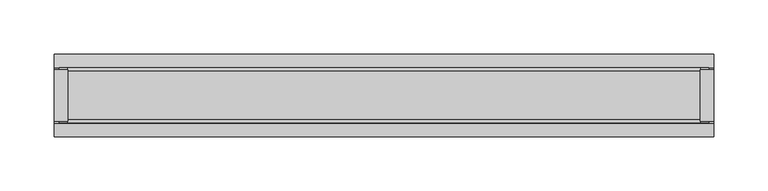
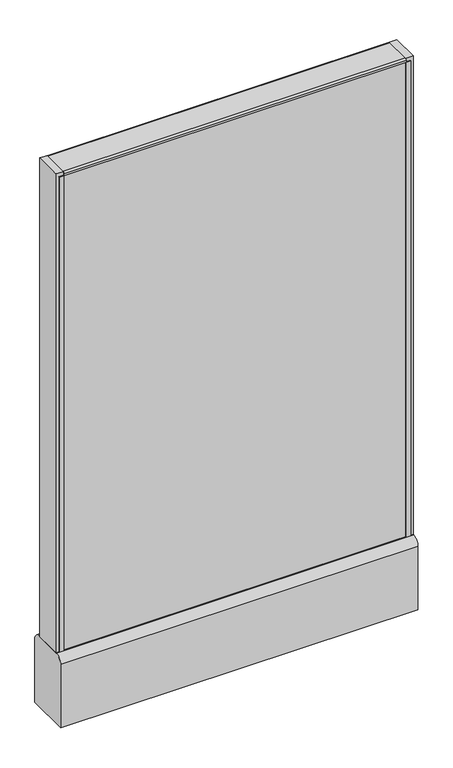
"""IFC4 building model written with IfcOpenShell, lengths in millimetres: furniture geometry."""

from ifc_helpers import new_model, si_unit, point, frame, frame_2d, origin, place, context, project, spatial, polyline, circle_curve, trimmed, segment, composite_curve, outline, extrude, source, transform, mapped, element, save
from ifc_brep_helpers import plane_surface, cylinder_surface, advanced_brep


def furniture_988329af(model_context):
    return source(origin(), model_context, "Body", "SolidModel", [
        advanced_brep(
        [(247.65, 0.0, 0.0), (273.05, 0.0, 0.0), (260.35, 0.0, 0.0), (247.65, 0.0, 4.7625), (273.05, 0.0, 4.7625), (254.0, 0.0, 4.7625), (266.7, 0.0, 4.7625), (254.0, 0.0, 111.125), (266.7, 0.0, 111.125), (260.35, 0.0, 111.125)],
        [
            (0, 1, circle_curve(frame((260.35, 0.0, 0.0), z_axis=(0.0, 0.0, -1.0), x_axis=(1.0, 0.0, 0.0)), 12.7)),
            (1, 2),
            (2, 0),
            (1, 0, circle_curve(frame((260.35, 0.0, 0.0), z_axis=(0.0, 0.0, -1.0), x_axis=(1.0, 0.0, 0.0)), 12.7)),
            (3, 4, circle_curve(frame((260.35, 0.0, 4.7625), z_axis=(0.0, 0.0, -1.0), x_axis=(1.0, 0.0, 0.0)), 12.7)),
            (4, 1),
            (0, 3),
            (4, 3, circle_curve(frame((260.35, 0.0, 4.7625), z_axis=(0.0, 0.0, -1.0), x_axis=(1.0, 0.0, 0.0)), 12.7)),
            (5, 6, circle_curve(frame((260.35, 0.0, 4.7625), z_axis=(0.0, 0.0, -1.0), x_axis=(1.0, 0.0, 0.0)), 6.35)),
            (6, 4),
            (3, 5),
            (6, 5, circle_curve(frame((260.35, 0.0, 4.7625), z_axis=(0.0, 0.0, -1.0), x_axis=(1.0, 0.0, 0.0)), 6.35)),
            (7, 8, circle_curve(frame((260.35, 0.0, 111.125), z_axis=(0.0, 0.0, -1.0), x_axis=(1.0, 0.0, 0.0)), 6.35)),
            (8, 6),
            (5, 7),
            (8, 7, circle_curve(frame((260.35, 0.0, 111.125), z_axis=(0.0, 0.0, -1.0), x_axis=(1.0, 0.0, 0.0)), 6.35)),
            (9, 8),
            (7, 9),
        ],
        [
            plane_surface(frame((260.35, 0.0, 0.0), z_axis=(0.0, 0.0, -1.0), x_axis=(1.0, 0.0, 0.0))),
            cylinder_surface(frame((260.35, 0.0, 114.882153), z_axis=(0.0, 0.0, 1.0), x_axis=(1.0, 0.0, 0.0)), 12.7),
            plane_surface(frame((260.35, 0.0, 4.7625), z_axis=(0.0, 0.0, 1.0), x_axis=(1.0, 0.0, 0.0))),
            cylinder_surface(frame((260.35, 0.0, 114.882153), z_axis=(0.0, 0.0, 1.0), x_axis=(1.0, 0.0, 0.0)), 6.35),
            plane_surface(frame((260.35, 0.0, 111.125), z_axis=(0.0, 0.0, 1.0), x_axis=(1.0, 0.0, 0.0))),
        ],
        [
            (0, [[1, 2, 3]]),
            (0, [[4, -3, -2]]),
            (1, [[5, 6, -1, 7]]),
            (1, [[8, -7, -4, -6]]),
            (2, [[9, 10, -5, 11]]),
            (2, [[12, -11, -8, -10]]),
            (3, [[13, 14, -9, 15]]),
            (3, [[16, -15, -12, -14]]),
            (4, [[17, -13, 18]]),
            (4, [[-18, -16, -17]]),
        ],
    ),
        advanced_brep(
        [(-273.05, 0.0, 4.7625), (-247.65, 0.0, 4.7625), (-247.65, 0.0, 0.0), (-273.05, 0.0, 0.0), (-266.7, 0.0, 4.7625), (-254.0, 0.0, 4.7625), (-266.7, 0.0, 111.125), (-254.0, 0.0, 111.125), (-260.35, 0.0, 111.125), (-260.35, 0.0, 0.0)],
        [
            (0, 1, circle_curve(frame((-260.35, 0.0, 4.7625), z_axis=(0.0, 0.0, -1.0), x_axis=(1.0, 0.0, 0.0)), 12.7)),
            (1, 2),
            (2, 3, circle_curve(frame((-260.35, 0.0, 0.0), z_axis=(0.0, 0.0, 1.0), x_axis=(1.0, 0.0, 0.0)), 12.7)),
            (3, 0),
            (1, 0, circle_curve(frame((-260.35, 0.0, 4.7625), z_axis=(0.0, 0.0, -1.0), x_axis=(1.0, 0.0, 0.0)), 12.7)),
            (3, 2, circle_curve(frame((-260.35, 0.0, 0.0), z_axis=(0.0, 0.0, 1.0), x_axis=(1.0, 0.0, 0.0)), 12.7)),
            (4, 5, circle_curve(frame((-260.35, 0.0, 4.7625), z_axis=(0.0, 0.0, -1.0), x_axis=(1.0, 0.0, 0.0)), 6.35)),
            (5, 1),
            (0, 4),
            (5, 4, circle_curve(frame((-260.35, 0.0, 4.7625), z_axis=(0.0, 0.0, -1.0), x_axis=(1.0, 0.0, 0.0)), 6.35)),
            (6, 7, circle_curve(frame((-260.35, 0.0, 111.125), z_axis=(0.0, 0.0, -1.0), x_axis=(1.0, 0.0, 0.0)), 6.35)),
            (7, 5),
            (4, 6),
            (7, 6, circle_curve(frame((-260.35, 0.0, 111.125), z_axis=(0.0, 0.0, -1.0), x_axis=(1.0, 0.0, 0.0)), 6.35)),
            (8, 7),
            (6, 8),
            (2, 9),
            (9, 3),
        ],
        [
            cylinder_surface(frame((-260.35, 0.0, 123.825), z_axis=(0.0, 0.0, 1.0), x_axis=(1.0, 0.0, 0.0)), 12.7),
            plane_surface(frame((-260.35, 0.0, 4.7625), z_axis=(0.0, 0.0, 1.0), x_axis=(1.0, 0.0, 0.0))),
            cylinder_surface(frame((-260.35, 0.0, 123.825), z_axis=(0.0, 0.0, 1.0), x_axis=(1.0, 0.0, 0.0)), 6.35),
            plane_surface(frame((-260.35, 0.0, 111.125), z_axis=(0.0, 0.0, 1.0), x_axis=(1.0, 0.0, 0.0))),
            plane_surface(frame((-260.35, 0.0, 0.0), z_axis=(0.0, 0.0, -1.0), x_axis=(1.0, 0.0, 0.0))),
        ],
        [
            (0, [[1, 2, 3, 4]]),
            (0, [[5, -4, 6, -2]]),
            (1, [[7, 8, -1, 9]]),
            (1, [[10, -9, -5, -8]]),
            (2, [[11, 12, -7, 13]]),
            (2, [[14, -13, -10, -12]]),
            (3, [[15, -11, 16]]),
            (3, [[-16, -14, -15]]),
            (4, [[-3, 17, 18]]),
            (4, [[-6, -18, -17]]),
        ],
    ),
        extrude(outline(polyline([(-304.8, 23.8125), (-292.1, 23.8125), (-292.1, -23.8125), (-304.8, -23.8125), (-304.8, 23.8125)])), frame((0.0, 0.0, 136.525), z_axis=(0.0, 0.0, 1.0), x_axis=(1.0, 0.0, 0.0)), (0.0, 0.0, 1.0), 863.6),
        extrude(outline(polyline([(292.1, -23.8125), (292.1, 23.8125), (304.8, 23.8125), (304.8, -23.8125), (292.1, -23.8125)])), frame((0.0, 0.0, 136.525), z_axis=(0.0, 0.0, 1.0), x_axis=(1.0, 0.0, 0.0)), (0.0, 0.0, 1.0), 863.6),
        extrude(outline(polyline([(-292.1, 25.4), (-292.1, 23.8125), (-300.0375, 23.8125), (-300.0375, 25.4), (-292.1, 25.4)])), frame((0.0, 0.0, 136.525), z_axis=(0.0, 0.0, 1.0), x_axis=(1.0, 0.0, 0.0)), (0.0, 0.0, 1.0), 857.25),
        extrude(outline(polyline([(-292.1, -25.4), (-300.0375, -25.4), (-300.0375, -23.8125), (-292.1, -23.8125), (-292.1, -25.4)])), frame((0.0, 0.0, 136.525), z_axis=(0.0, 0.0, 1.0), x_axis=(1.0, 0.0, 0.0)), (0.0, 0.0, 1.0), 857.25),
        extrude(outline(polyline([(300.0375, 23.8125), (292.1, 23.8125), (292.1, 25.4), (300.0375, 25.4), (300.0375, 23.8125)])), frame((0.0, 0.0, 136.525), z_axis=(0.0, 0.0, 1.0), x_axis=(1.0, 0.0, 0.0)), (0.0, 0.0, 1.0), 857.25),
        extrude(outline(polyline([(292.1, -25.4), (292.1, -23.8125), (300.0375, -23.8125), (300.0375, -25.4), (292.1, -25.4)])), frame((0.0, 0.0, 136.525), z_axis=(0.0, 0.0, 1.0), x_axis=(1.0, 0.0, 0.0)), (0.0, 0.0, 1.0), 857.25),
        extrude(outline(composite_curve([segment(trimmed(circle_curve(frame_2d((22.225, 996.95)), 3.175), [point((22.225, 1000.125))], [point((25.4, 996.95))], False, "CARTESIAN"), True, "CONTINUOUS"), segment(polyline([(25.4, 996.95), (25.4, 993.775), (-25.4, 993.775), (-25.4, 996.95)]), True, "CONTINUOUS"), segment(trimmed(circle_curve(frame_2d((-22.225, 996.95)), 3.175), [point((-25.4, 996.95))], [point((-22.225, 1000.125))], False, "CARTESIAN"), True, "CONTINUOUS"), segment(polyline([(-22.225, 1000.125), (22.225, 1000.125)]), True, "CONTINUOUS")], self_intersect=False)), frame((-292.1, 0.0, 0.0), z_axis=(1.0, 0.0, 0.0), x_axis=(0.0, 1.0, 0.0)), (0.0, 0.0, 1.0), 584.2),
        extrude(outline(composite_curve([segment(trimmed(circle_curve(frame_2d((25.4, 123.825)), 12.7), [point((25.4, 136.525))], [point((38.1, 123.825))], False, "CARTESIAN"), True, "CONTINUOUS"), segment(polyline([(38.1, 123.825), (38.1, 9.525), (-38.1, 9.525), (-38.1, 123.825)]), True, "CONTINUOUS"), segment(trimmed(circle_curve(frame_2d((-25.4, 123.825)), 12.7), [point((-38.1, 123.825))], [point((-25.4, 136.525))], False, "CARTESIAN"), True, "CONTINUOUS"), segment(polyline([(-25.4, 136.525), (25.4, 136.525)]), True, "CONTINUOUS")], self_intersect=False)), frame((-304.8, 0.0, 0.0), z_axis=(1.0, 0.0, 0.0), x_axis=(0.0, 1.0, 0.0)), (0.0, 0.0, 1.0), 609.6),
        extrude(outline(polyline([(292.1, 23.8125), (292.1, -23.8125), (-292.1, -23.8125), (-292.1, 23.8125), (292.1, 23.8125)])), frame((0.0, 0.0, 136.525), z_axis=(0.0, 0.0, 1.0), x_axis=(1.0, 0.0, 0.0)), (0.0, 0.0, 1.0), 857.25),
    ])


if __name__ == "__main__":
    model = new_model("IFC4")
    model_context = context("Model", 3, world=origin())
    ifc_project = project(units=[si_unit("LENGTHUNIT", "METRE", prefix="MILLI")], contexts=[model_context])
    site = spatial("IfcSite", under=ifc_project)
    building = spatial("IfcBuilding", under=site)
    placement = place(None, origin())
    furniture_shape = furniture_988329af(model_context)
    element("IfcFurniture", 1, ObjectType="HermanMiller_ActionOffice_A1110_Hard-SurfacedPanelStandardBase : 39\"H x 24\"W-N", at=placement, inside=building, context=model_context, shape_type="MappedRepresentation", body=[
        mapped(furniture_shape, transform((0.0, 0.0, 0.0), x_axis=(1.0, 0.0, 0.0), y_axis=(0.0, 1.0, 0.0), z_axis=(0.0, 0.0, 1.0))),
    ])
    save(model, "model.ifc")
